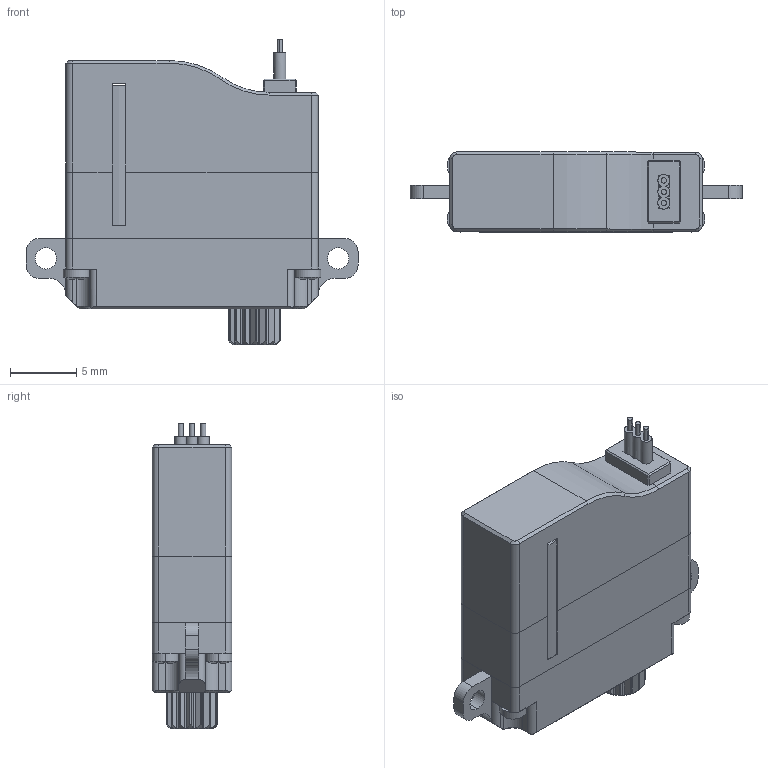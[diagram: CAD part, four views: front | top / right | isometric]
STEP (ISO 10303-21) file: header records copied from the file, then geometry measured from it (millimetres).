
FILE_DESCRIPTION (( 'STEP AP214' ), '1' );
FILE_NAME ('HV&LV 06H_DM_20220705.STEP', '2022-07-05T07:27:17', ( '微软用户' ), ( '微软中国' ), 'SwSTEP 2.0', 'SolidWorks 2016', '' );
FILE_SCHEMA (( 'AUTOMOTIVE_DESIGN' ));
Length unit declared in the file: millimetre
Products named in the file (1): HV&LV 06H_DM_20220705
Bounding box: 25 x 6 x 23 mm (x, y, z)
Surface area: 1545.4 mm2 (no closed solid volume)
Topology: 0 solids, 10 shells, 321 faces, 1003 edges, 678 vertices
Faces by surface type: plane 172, cylinder 111, cone 30, sphere 8
Entity records: 14808 total; most frequent: CARTESIAN_POINT 2374, DIRECTION 1905, ORIENTED_EDGE 1778, EDGE_CURVE 1003, AXIS2_PLACEMENT_3D 693, VERTEX_POINT 678, VECTOR 519, LINE 519
